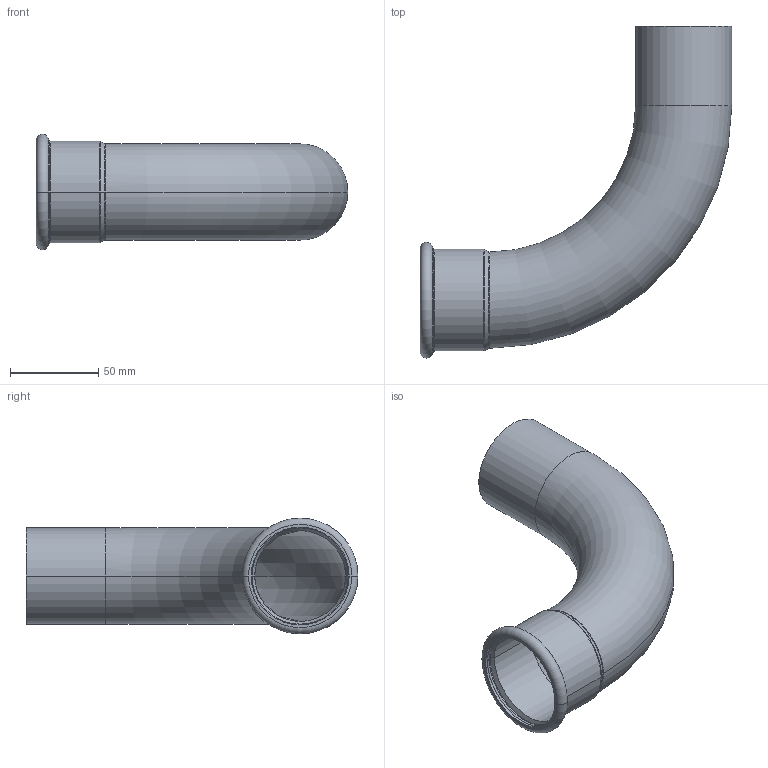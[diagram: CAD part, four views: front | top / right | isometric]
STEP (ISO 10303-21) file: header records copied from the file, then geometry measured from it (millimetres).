
FILE_DESCRIPTION (( 'STEP AP214' ), '1' );
FILE_NAME ('E54000B.STEP', '2025-08-17T07:55:29', ( '' ), ( '' ), 'SwSTEP 2.0', 'SolidWorks 2020', '' );
FILE_SCHEMA (( 'AUTOMOTIVE_DESIGN' ));
Length unit declared in the file: millimetre
Products named in the file (1): E54000B
Bounding box: 176.2 x 187.7 x 65.4 mm (x, y, z)
Volume: 67334.8 mm3; surface area: 90370.5 mm2
Topology: 2 solids, 2 shells, 39 faces, 84 edges, 48 vertices
Faces by surface type: torus 14, cylinder 10, cone 8, bspline 4, plane 3
Entity records: 3172 total; most frequent: CARTESIAN_POINT 1935, DIRECTION 196, ORIENTED_EDGE 168, AXIS2_PLACEMENT_3D 89, EDGE_CURVE 84, CIRCLE 53, VERTEX_POINT 48, EDGE_LOOP 42
